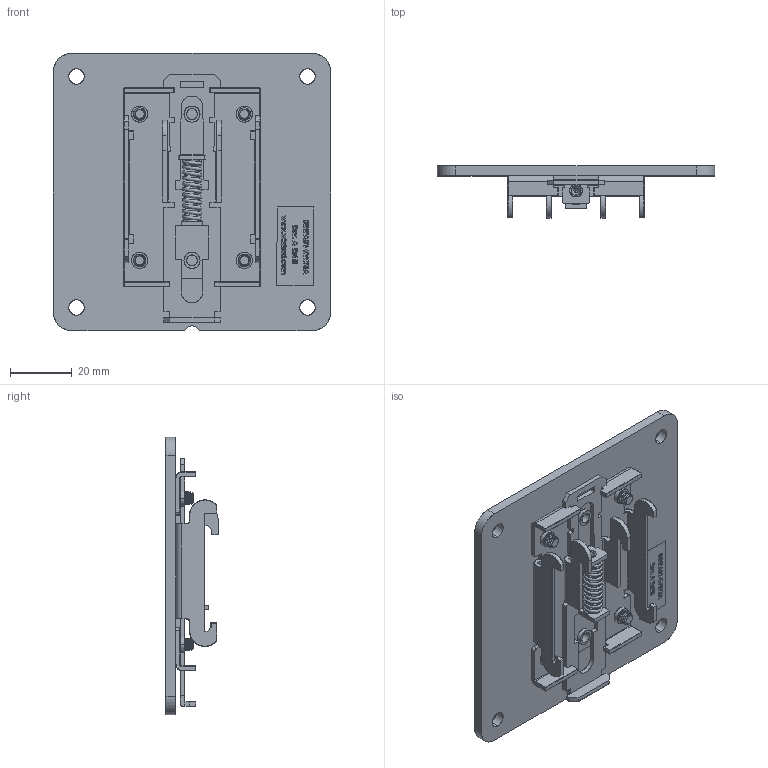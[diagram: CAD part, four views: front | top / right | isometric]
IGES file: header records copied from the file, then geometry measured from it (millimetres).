
Start section: SolidWorks IGES file using analytic representation for surfaces
Global section: file name: W:\end-user\products\dinp\dinpa\dinpa01-zve75a\3dmodel\rev_a\render\dinpa01-zve75a_rev_a.igs; native system: SolidWorks 2018; preprocessor: SolidWorks 2018; author: leviroy; date: 260807.093315; units: inch
Bounding box: 90 x 16.95 x 90 mm (x, y, z)
Surface area: 30914.2 mm2 (no closed solid volume)
Topology: 0 solids, 0 shells, 1304 faces, 14778 edges, 14747 vertices
Faces by surface type: bspline 818, revolution 486
